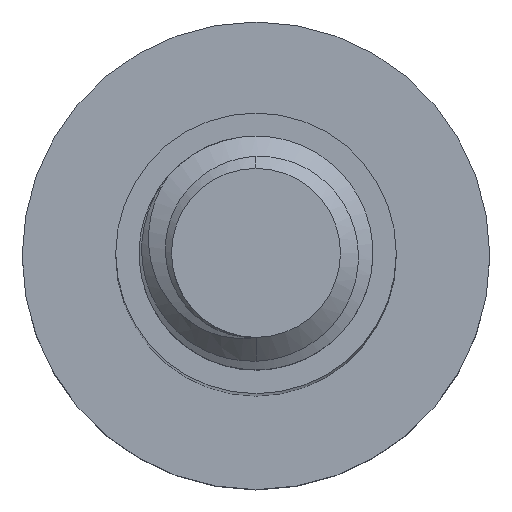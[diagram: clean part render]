
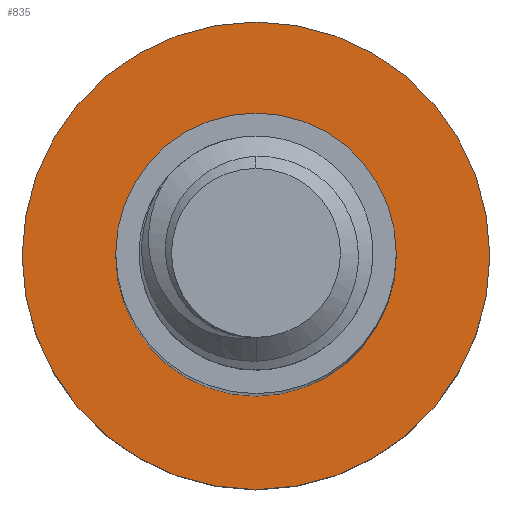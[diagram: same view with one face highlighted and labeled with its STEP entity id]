
A CAD part, top view. The second image highlights one B-rep face of the part: STEP entity #835.
In plain terms, the highlighted planar face has unit normal (0, 0, 1).
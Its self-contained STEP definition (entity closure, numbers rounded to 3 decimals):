
#187 = EDGE_CURVE ( 'NONE', #2387, #2311, #843, .T. ) ;
#219 = CARTESIAN_POINT ( 'NONE',  ( 0., 0., -30. ) ) ;
#412 = DIRECTION ( 'NONE',  ( 0., 0., -1. ) ) ;
#479 = ORIENTED_EDGE ( 'NONE', *, *, #1874, .F. ) ;
#571 = DIRECTION ( 'NONE',  ( -1., 0., 0. ) ) ;
#584 = DIRECTION ( 'NONE',  ( -1., 0., 0. ) ) ;
#594 = DIRECTION ( 'NONE',  ( 0., 0., -1. ) ) ;
#605 = ORIENTED_EDGE ( 'NONE', *, *, #965, .F. ) ;
#625 = CARTESIAN_POINT ( 'NONE',  ( 0., 0., -30. ) ) ;
#646 = VERTEX_POINT ( 'NONE', #2147 ) ;
#747 = DIRECTION ( 'NONE',  ( 0., 0., -1. ) ) ;
#835 = ADVANCED_FACE ( 'NONE', ( #2107, #1171 ), #1184, .F. ) ;
#843 = CIRCLE ( 'NONE', #1828, 3. ) ;
#905 = ORIENTED_EDGE ( 'NONE', *, *, #187, .T. ) ;
#965 = EDGE_CURVE ( 'NONE', #646, #1590, #1870, .T. ) ;
#1046 = ORIENTED_EDGE ( 'NONE', *, *, #1542, .T. ) ;
#1171 = FACE_OUTER_BOUND ( 'NONE', #2030, .T. ) ;
#1184 = PLANE ( 'NONE',  #2144 ) ;
#1354 = CARTESIAN_POINT ( 'NONE',  ( 0., 0., -30. ) ) ;
#1372 = DIRECTION ( 'NONE',  ( 0., 0., -1. ) ) ;
#1503 = CARTESIAN_POINT ( 'NONE',  ( 0., 0., -30. ) ) ;
#1504 = CARTESIAN_POINT ( 'NONE',  ( 0., 0., -30. ) ) ;
#1538 = DIRECTION ( 'NONE',  ( 0., 0., -1. ) ) ;
#1542 = EDGE_CURVE ( 'NONE', #2311, #2387, #2065, .T. ) ;
#1590 = VERTEX_POINT ( 'NONE', #1898 ) ;
#1600 = AXIS2_PLACEMENT_3D ( 'NONE', #625, #1372, #2118 ) ;
#1676 = CIRCLE ( 'NONE', #1803, 5. ) ;
#1739 = CARTESIAN_POINT ( 'NONE',  ( -3., 0., -30. ) ) ;
#1803 = AXIS2_PLACEMENT_3D ( 'NONE', #1354, #1538, #1940 ) ;
#1828 = AXIS2_PLACEMENT_3D ( 'NONE', #1504, #594, #571 ) ;
#1870 = CIRCLE ( 'NONE', #1600, 5. ) ;
#1874 = EDGE_CURVE ( 'NONE', #1590, #646, #1676, .T. ) ;
#1888 = DIRECTION ( 'NONE',  ( -1., 0., 0. ) ) ;
#1898 = CARTESIAN_POINT ( 'NONE',  ( -5., 0., -30. ) ) ;
#1940 = DIRECTION ( 'NONE',  ( -1., 0., 0. ) ) ;
#1976 = CARTESIAN_POINT ( 'NONE',  ( 3., 0., -30. ) ) ;
#2030 = EDGE_LOOP ( 'NONE', ( #605, #479 ) ) ;
#2065 = CIRCLE ( 'NONE', #2341, 3. ) ;
#2107 = FACE_BOUND ( 'NONE', #2258, .T. ) ;
#2118 = DIRECTION ( 'NONE',  ( -1., 0., 0. ) ) ;
#2144 = AXIS2_PLACEMENT_3D ( 'NONE', #1503, #412, #1888 ) ;
#2147 = CARTESIAN_POINT ( 'NONE',  ( 5., 0., -30. ) ) ;
#2258 = EDGE_LOOP ( 'NONE', ( #1046, #905 ) ) ;
#2311 = VERTEX_POINT ( 'NONE', #1739 ) ;
#2341 = AXIS2_PLACEMENT_3D ( 'NONE', #219, #747, #584 ) ;
#2387 = VERTEX_POINT ( 'NONE', #1976 ) ;
